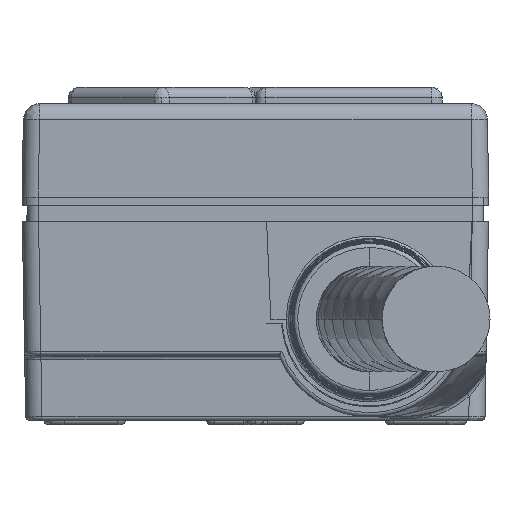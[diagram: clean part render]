
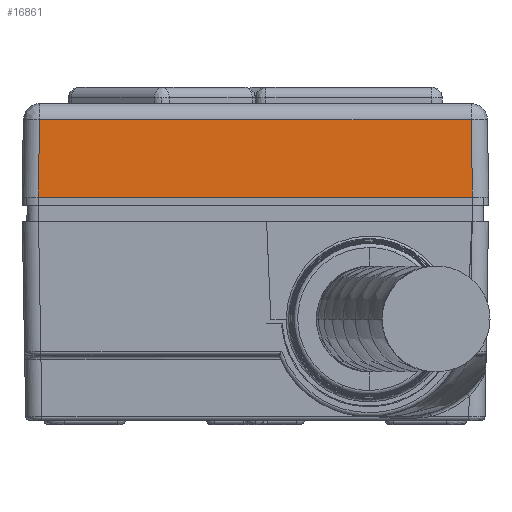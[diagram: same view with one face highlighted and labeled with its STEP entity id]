
A CAD part, left-side view. The second image highlights one B-rep face of the part: STEP entity #16861.
In plain terms, the highlighted planar face has unit normal (-1, 0, 0.018).
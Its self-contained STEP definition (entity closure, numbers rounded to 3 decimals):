
#3658 = CARTESIAN_POINT ( 'NONE',  ( -25.5, 13.35, 0.5 ) ) ;
#3872 = VERTEX_POINT ( 'NONE', #20800 ) ;
#4217 = CARTESIAN_POINT ( 'NONE',  ( -25.5, -13.35, 0.5 ) ) ;
#9949 = CARTESIAN_POINT ( 'NONE',  ( -25.5, -14.35, 0.5 ) ) ;
#12019 = PLANE ( 'NONE',  #49257 ) ;
#12700 = CARTESIAN_POINT ( 'NONE',  ( -25.417, -13.267, 5.267 ) ) ;
#12804 = VECTOR ( 'NONE', #38020, 1000. ) ;
#13643 = EDGE_CURVE ( 'NONE', #3872, #24102, #38024, .T. ) ;
#13706 = VERTEX_POINT ( 'NONE', #4217 ) ;
#14134 = ORIENTED_EDGE ( 'NONE', *, *, #28660, .F. ) ;
#14474 = FACE_OUTER_BOUND ( 'NONE', #38474, .T. ) ;
#15252 = VERTEX_POINT ( 'NONE', #12700 ) ;
#15552 = CARTESIAN_POINT ( 'NONE',  ( -25.417, 13.267, 5.267 ) ) ;
#16861 = ADVANCED_FACE ( 'NONE', ( #14474 ), #12019, .T. ) ;
#17052 = VECTOR ( 'NONE', #49780, 1000. ) ;
#20800 = CARTESIAN_POINT ( 'NONE',  ( -25.417, 13.267, 5.267 ) ) ;
#23593 = CARTESIAN_POINT ( 'NONE',  ( -25.5, 0., 0.5 ) ) ;
#24102 = VERTEX_POINT ( 'NONE', #3658 ) ;
#26363 = EDGE_CURVE ( 'NONE', #24102, #13706, #41942, .T. ) ;
#27420 = DIRECTION ( 'NONE',  ( 0.017, 0., 1. ) ) ;
#27803 = DIRECTION ( 'NONE',  ( -0.017, 0.017, -1. ) ) ;
#28292 = ORIENTED_EDGE ( 'NONE', *, *, #13643, .T. ) ;
#28660 = EDGE_CURVE ( 'NONE', #3872, #15252, #34082, .T. ) ;
#30221 = ORIENTED_EDGE ( 'NONE', *, *, #50302, .T. ) ;
#31619 = DIRECTION ( 'NONE',  ( -1., 0., 0.017 ) ) ;
#33385 = LINE ( 'NONE', #38634, #49488 ) ;
#34082 = LINE ( 'NONE', #49463, #12804 ) ;
#34167 = ORIENTED_EDGE ( 'NONE', *, *, #26363, .T. ) ;
#34929 = VECTOR ( 'NONE', #27803, 1000. ) ;
#38020 = DIRECTION ( 'NONE',  ( 0., -1., 0. ) ) ;
#38024 = LINE ( 'NONE', #15552, #34929 ) ;
#38474 = EDGE_LOOP ( 'NONE', ( #34167, #30221, #14134, #28292 ) ) ;
#38634 = CARTESIAN_POINT ( 'NONE',  ( -25.5, -13.35, 0.5 ) ) ;
#38797 = DIRECTION ( 'NONE',  ( 0.017, 0.017, 1. ) ) ;
#41942 = LINE ( 'NONE', #9949, #17052 ) ;
#49257 = AXIS2_PLACEMENT_3D ( 'NONE', #23593, #31619, #27420 ) ;
#49463 = CARTESIAN_POINT ( 'NONE',  ( -25.417, -14.35, 5.267 ) ) ;
#49488 = VECTOR ( 'NONE', #38797, 1000. ) ;
#49780 = DIRECTION ( 'NONE',  ( 0., -1., 0. ) ) ;
#50302 = EDGE_CURVE ( 'NONE', #13706, #15252, #33385, .T. ) ;
